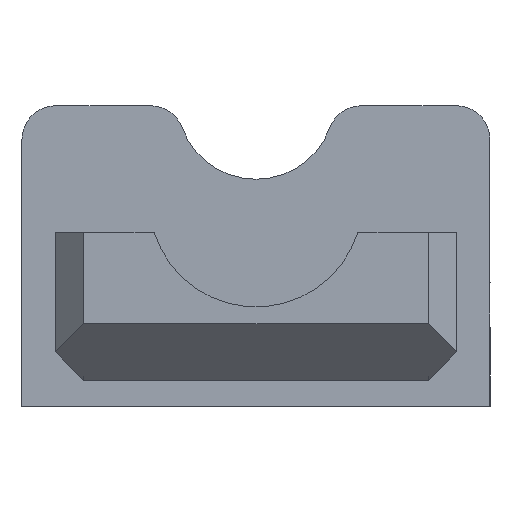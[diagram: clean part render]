
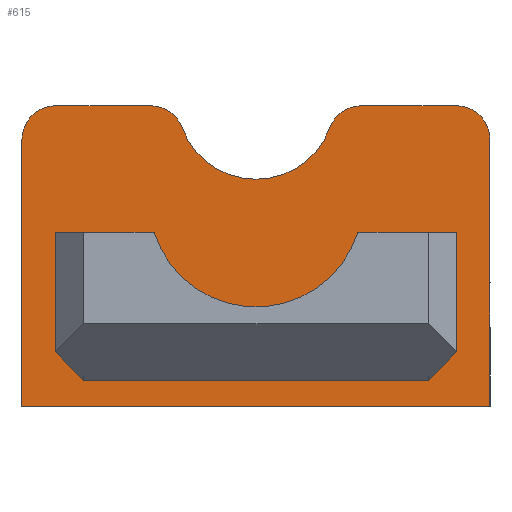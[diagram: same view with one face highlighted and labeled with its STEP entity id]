
A CAD part, left-side view. The second image highlights one B-rep face of the part: STEP entity #615.
In plain terms, the highlighted planar face has unit normal (-1, 0, 0).
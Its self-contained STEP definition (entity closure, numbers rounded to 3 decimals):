
#15=FACE_BOUND('',#91,.T.);
#27=CIRCLE('',#665,9.5);
#28=CIRCLE('',#667,3.);
#29=CIRCLE('',#668,3.);
#30=CIRCLE('',#669,3.);
#31=CIRCLE('',#670,7.);
#32=CIRCLE('',#671,3.);
#57=FACE_OUTER_BOUND('',#90,.T.);
#90=EDGE_LOOP('',(#482,#483,#484,#485,#486,#487,#488,#489,#490,#491));
#91=EDGE_LOOP('',(#492,#493,#494,#495,#496,#497));
#118=LINE('',#892,#190);
#126=LINE('',#907,#198);
#135=LINE('',#930,#207);
#137=LINE('',#936,#209);
#159=LINE('',#981,#231);
#160=LINE('',#988,#232);
#161=LINE('',#996,#233);
#162=LINE('',#999,#234);
#163=LINE('',#1000,#235);
#164=LINE('',#1001,#236);
#190=VECTOR('',#715,10.);
#198=VECTOR('',#725,10.);
#207=VECTOR('',#744,10.);
#209=VECTOR('',#748,10.);
#231=VECTOR('',#786,10.);
#232=VECTOR('',#795,10.);
#233=VECTOR('',#804,10.);
#234=VECTOR('',#805,10.);
#235=VECTOR('',#806,10.);
#236=VECTOR('',#807,10.);
#259=VERTEX_POINT('',#889);
#260=VERTEX_POINT('',#891);
#266=VERTEX_POINT('',#905);
#273=VERTEX_POINT('',#924);
#275=VERTEX_POINT('',#928);
#277=VERTEX_POINT('',#933);
#278=VERTEX_POINT('',#935);
#292=VERTEX_POINT('',#977);
#293=VERTEX_POINT('',#979);
#294=VERTEX_POINT('',#985);
#295=VERTEX_POINT('',#987);
#296=VERTEX_POINT('',#990);
#297=VERTEX_POINT('',#992);
#298=VERTEX_POINT('',#994);
#299=VERTEX_POINT('',#997);
#300=VERTEX_POINT('',#998);
#320=EDGE_CURVE('',#260,#259,#118,.T.);
#328=EDGE_CURVE('',#266,#259,#126,.F.);
#339=EDGE_CURVE('',#273,#275,#135,.T.);
#341=EDGE_CURVE('',#278,#277,#137,.T.);
#364=EDGE_CURVE('',#292,#293,#159,.T.);
#365=EDGE_CURVE('',#277,#292,#27,.T.);
#366=EDGE_CURVE('',#260,#294,#28,.T.);
#367=EDGE_CURVE('',#266,#295,#160,.T.);
#368=EDGE_CURVE('',#273,#295,#29,.T.);
#369=EDGE_CURVE('',#296,#275,#30,.T.);
#370=EDGE_CURVE('',#296,#297,#31,.T.);
#371=EDGE_CURVE('',#298,#297,#32,.T.);
#372=EDGE_CURVE('',#298,#294,#161,.T.);
#373=EDGE_CURVE('',#299,#300,#162,.T.);
#374=EDGE_CURVE('',#300,#278,#163,.T.);
#375=EDGE_CURVE('',#293,#299,#164,.T.);
#482=ORIENTED_EDGE('',*,*,#366,.F.);
#483=ORIENTED_EDGE('',*,*,#320,.T.);
#484=ORIENTED_EDGE('',*,*,#328,.F.);
#485=ORIENTED_EDGE('',*,*,#367,.T.);
#486=ORIENTED_EDGE('',*,*,#368,.F.);
#487=ORIENTED_EDGE('',*,*,#339,.T.);
#488=ORIENTED_EDGE('',*,*,#369,.F.);
#489=ORIENTED_EDGE('',*,*,#370,.T.);
#490=ORIENTED_EDGE('',*,*,#371,.F.);
#491=ORIENTED_EDGE('',*,*,#372,.T.);
#492=ORIENTED_EDGE('',*,*,#373,.T.);
#493=ORIENTED_EDGE('',*,*,#374,.T.);
#494=ORIENTED_EDGE('',*,*,#341,.T.);
#495=ORIENTED_EDGE('',*,*,#365,.T.);
#496=ORIENTED_EDGE('',*,*,#364,.T.);
#497=ORIENTED_EDGE('',*,*,#375,.T.);
#589=PLANE('',#666);
#615=ADVANCED_FACE('',(#57,#15),#589,.F.);
#665=AXIS2_PLACEMENT_3D('',#983,#789,#790);
#666=AXIS2_PLACEMENT_3D('',#984,#791,#792);
#667=AXIS2_PLACEMENT_3D('',#986,#793,#794);
#668=AXIS2_PLACEMENT_3D('',#989,#796,#797);
#669=AXIS2_PLACEMENT_3D('',#991,#798,#799);
#670=AXIS2_PLACEMENT_3D('',#993,#800,#801);
#671=AXIS2_PLACEMENT_3D('',#995,#802,#803);
#715=DIRECTION('',(0.,0.,-1.));
#725=DIRECTION('',(0.,-1.,0.));
#744=DIRECTION('',(0.,1.,0.));
#748=DIRECTION('',(0.,-1.,0.));
#786=DIRECTION('',(0.,-1.,0.));
#789=DIRECTION('center_axis',(-1.,0.,0.));
#790=DIRECTION('ref_axis',(0.,1.,0.));
#791=DIRECTION('center_axis',(1.,0.,0.));
#792=DIRECTION('ref_axis',(0.,1.,0.));
#793=DIRECTION('center_axis',(1.,0.,0.));
#794=DIRECTION('ref_axis',(0.,0.707,0.707));
#795=DIRECTION('',(0.,0.,1.));
#796=DIRECTION('center_axis',(1.,0.,0.));
#797=DIRECTION('ref_axis',(0.,-0.707,0.707));
#798=DIRECTION('center_axis',(1.,0.,0.));
#799=DIRECTION('ref_axis',(0.,0.572,0.82));
#800=DIRECTION('center_axis',(1.,0.,0.));
#801=DIRECTION('ref_axis',(0.,1.,0.));
#802=DIRECTION('center_axis',(1.,0.,0.));
#803=DIRECTION('ref_axis',(0.,-0.572,0.82));
#804=DIRECTION('',(0.,1.,0.));
#805=DIRECTION('',(0.,1.,0.));
#806=DIRECTION('',(0.,0.,1.));
#807=DIRECTION('',(0.,0.,-1.));
#889=CARTESIAN_POINT('',(96.15,20.8,-204.478));
#891=CARTESIAN_POINT('',(96.15,20.8,-180.76));
#892=CARTESIAN_POINT('',(96.15,20.8,-196.033));
#905=CARTESIAN_POINT('',(96.15,-20.8,-204.478));
#907=CARTESIAN_POINT('',(96.15,-18.05,-204.478));
#924=CARTESIAN_POINT('',(96.15,-17.8,-177.76));
#928=CARTESIAN_POINT('',(96.15,-9.382,-177.76));
#930=CARTESIAN_POINT('',(96.15,-20.8,-177.76));
#933=CARTESIAN_POINT('',(96.15,9.062,-189.));
#935=CARTESIAN_POINT('',(96.15,15.3,-189.));
#936=CARTESIAN_POINT('',(96.15,0.,-189.));
#977=CARTESIAN_POINT('',(96.15,-9.062,-189.));
#979=CARTESIAN_POINT('',(96.15,-15.3,-189.));
#981=CARTESIAN_POINT('',(96.15,0.,-189.));
#983=CARTESIAN_POINT('Origin',(96.15,0.,-186.15));
#984=CARTESIAN_POINT('Origin',(96.15,-15.3,-190.));
#985=CARTESIAN_POINT('',(96.15,17.8,-177.76));
#986=CARTESIAN_POINT('Origin',(96.15,17.8,-180.76));
#987=CARTESIAN_POINT('',(96.15,-20.8,-180.76));
#988=CARTESIAN_POINT('',(96.15,-20.8,-183.851));
#989=CARTESIAN_POINT('Origin',(96.15,-17.8,-180.76));
#990=CARTESIAN_POINT('',(96.15,-6.567,-179.722));
#991=CARTESIAN_POINT('Origin',(96.15,-9.382,-180.76));
#992=CARTESIAN_POINT('',(96.15,6.567,-179.722));
#993=CARTESIAN_POINT('Origin',(96.15,0.,-177.298));
#994=CARTESIAN_POINT('',(96.15,9.382,-177.76));
#995=CARTESIAN_POINT('Origin',(96.15,9.382,-180.76));
#996=CARTESIAN_POINT('',(96.15,-20.8,-177.76));
#997=CARTESIAN_POINT('',(96.15,-15.3,-202.15));
#998=CARTESIAN_POINT('',(96.15,15.3,-202.15));
#999=CARTESIAN_POINT('',(96.15,0.,-202.15));
#1000=CARTESIAN_POINT('',(96.15,15.3,-196.046));
#1001=CARTESIAN_POINT('',(96.15,-15.3,-189.471));
